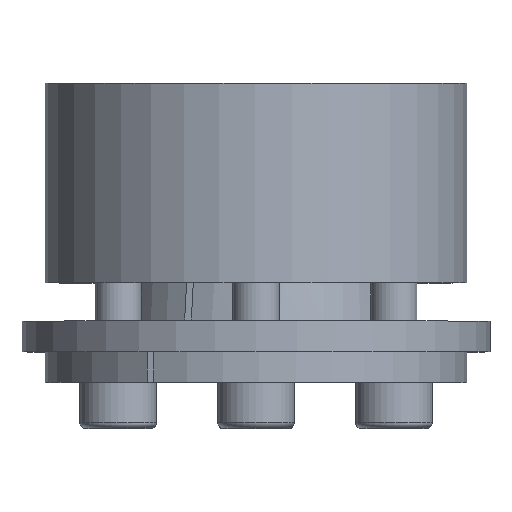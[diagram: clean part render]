
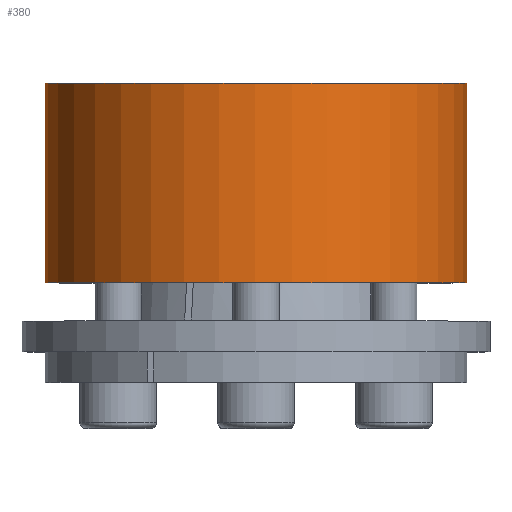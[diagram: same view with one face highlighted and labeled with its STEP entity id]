
A CAD part, top view. The second image highlights one B-rep face of the part: STEP entity #380.
In plain terms, the highlighted cylindrical face has radius 27.5 mm (diameter 55 mm), a partial arc.
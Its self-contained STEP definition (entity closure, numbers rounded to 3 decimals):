
#380 = ADVANCED_FACE( '', ( #618 ), #619, .T. );
#618 = FACE_OUTER_BOUND( '', #784, .T. );
#619 = CYLINDRICAL_SURFACE( '', #785, 27.5 );
#784 = EDGE_LOOP( '', ( #1092, #1093, #1094, #1095 ) );
#785 = AXIS2_PLACEMENT_3D( '', #1096, #1097, #1098 );
#1092 = ORIENTED_EDGE( '', *, *, #1442, .F. );
#1093 = ORIENTED_EDGE( '', *, *, #1423, .T. );
#1094 = ORIENTED_EDGE( '', *, *, #1444, .T. );
#1095 = ORIENTED_EDGE( '', *, *, #1445, .F. );
#1096 = CARTESIAN_POINT( '', ( 0., -60., 0. ) );
#1097 = DIRECTION( '', ( 0., 1., 0. ) );
#1098 = DIRECTION( '', ( 0., 0., -1. ) );
#1423 = EDGE_CURVE( '', #1617, #1626, #1628, .F. );
#1442 = EDGE_CURVE( '', #1617, #1657, #1658, .T. );
#1444 = EDGE_CURVE( '', #1626, #1660, #1661, .T. );
#1445 = EDGE_CURVE( '', #1657, #1660, #1662, .F. );
#1617 = VERTEX_POINT( '', #1817 );
#1626 = VERTEX_POINT( '', #1832 );
#1628 = LINE( '', #1835, #1836 );
#1657 = VERTEX_POINT( '', #1876 );
#1658 = CIRCLE( '', #1877, 27.5 );
#1660 = VERTEX_POINT( '', #1880 );
#1661 = CIRCLE( '', #1881, 27.5 );
#1662 = LINE( '', #1882, #1883 );
#1817 = CARTESIAN_POINT( '', ( 14.181, 13., -23.562 ) );
#1832 = CARTESIAN_POINT( '', ( 14.181, 39., -23.562 ) );
#1835 = CARTESIAN_POINT( '', ( 14.181, -60., -23.562 ) );
#1836 = VECTOR( '', #2016, 1000. );
#1876 = CARTESIAN_POINT( '', ( 13.315, 13., -24.062 ) );
#1877 = AXIS2_PLACEMENT_3D( '', #2052, #2053, #2054 );
#1880 = CARTESIAN_POINT( '', ( 13.315, 39., -24.062 ) );
#1881 = AXIS2_PLACEMENT_3D( '', #2056, #2057, #2058 );
#1882 = CARTESIAN_POINT( '', ( 13.315, -60., -24.062 ) );
#1883 = VECTOR( '', #2059, 1000. );
#2016 = DIRECTION( '', ( 0., -1., 0. ) );
#2052 = CARTESIAN_POINT( '', ( 0., 13., 0. ) );
#2053 = DIRECTION( '', ( 0., -1., 0. ) );
#2054 = DIRECTION( '', ( 0., 0., -1. ) );
#2056 = CARTESIAN_POINT( '', ( 0., 39., 0. ) );
#2057 = DIRECTION( '', ( 0., -1., 0. ) );
#2058 = DIRECTION( '', ( 0., 0., -1. ) );
#2059 = DIRECTION( '', ( 0., -1., 0. ) );
